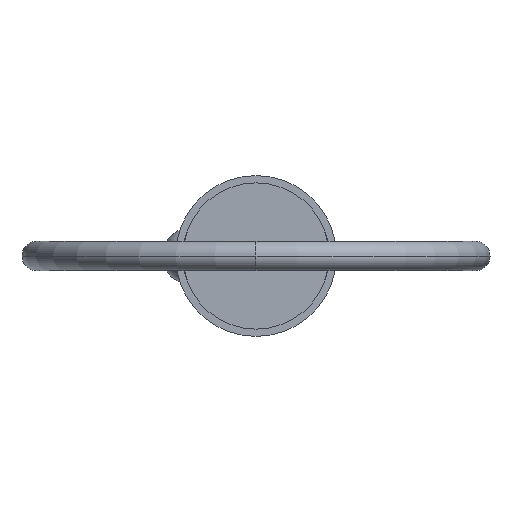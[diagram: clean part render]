
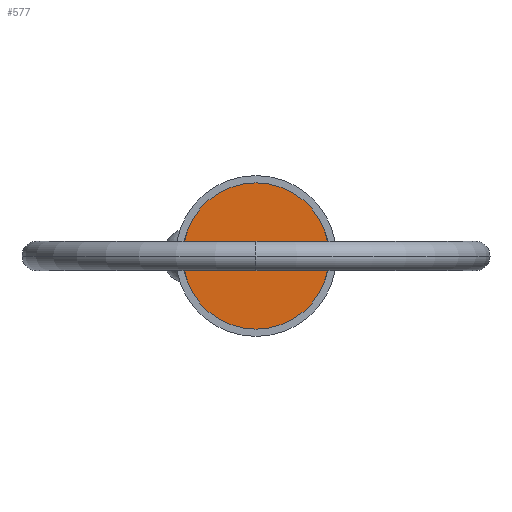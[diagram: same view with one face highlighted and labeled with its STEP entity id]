
A CAD part, left-side view. The second image highlights one B-rep face of the part: STEP entity #577.
In plain terms, the highlighted planar face has unit normal (-1, 0, 0).
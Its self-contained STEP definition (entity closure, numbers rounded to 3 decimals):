
#4 = CIRCLE ( 'NONE', #125, 9.525 ) ;
#99 = EDGE_CURVE ( 'NONE', #695, #977, #4, .T. ) ;
#107 = AXIS2_PLACEMENT_3D ( 'NONE', #435, #449, #293 ) ;
#110 = DIRECTION ( 'NONE',  ( 1., 0., 0. ) ) ;
#123 = PLANE ( 'NONE',  #703 ) ;
#125 = AXIS2_PLACEMENT_3D ( 'NONE', #510, #110, #906 ) ;
#226 = DIRECTION ( 'NONE',  ( -1., 0., 0. ) ) ;
#231 = EDGE_LOOP ( 'NONE', ( #650, #1030 ) ) ;
#293 = DIRECTION ( 'NONE',  ( 0., 0., -1. ) ) ;
#305 = DIRECTION ( 'NONE',  ( 0., 0., 1. ) ) ;
#435 = CARTESIAN_POINT ( 'NONE',  ( 0., 0., 0. ) ) ;
#449 = DIRECTION ( 'NONE',  ( 1., 0., 0. ) ) ;
#510 = CARTESIAN_POINT ( 'NONE',  ( 0., 0., 0. ) ) ;
#542 = EDGE_CURVE ( 'NONE', #977, #695, #1036, .T. ) ;
#577 = ADVANCED_FACE ( 'NONE', ( #856 ), #123, .T. ) ;
#609 = CARTESIAN_POINT ( 'NONE',  ( 0., 0., 9.525 ) ) ;
#650 = ORIENTED_EDGE ( 'NONE', *, *, #99, .F. ) ;
#695 = VERTEX_POINT ( 'NONE', #801 ) ;
#703 = AXIS2_PLACEMENT_3D ( 'NONE', #1028, #226, #305 ) ;
#801 = CARTESIAN_POINT ( 'NONE',  ( 0., 0., -9.525 ) ) ;
#856 = FACE_OUTER_BOUND ( 'NONE', #231, .T. ) ;
#906 = DIRECTION ( 'NONE',  ( 0., 0., -1. ) ) ;
#977 = VERTEX_POINT ( 'NONE', #609 ) ;
#1028 = CARTESIAN_POINT ( 'NONE',  ( 0., 0., 0. ) ) ;
#1030 = ORIENTED_EDGE ( 'NONE', *, *, #542, .F. ) ;
#1036 = CIRCLE ( 'NONE', #107, 9.525 ) ;
